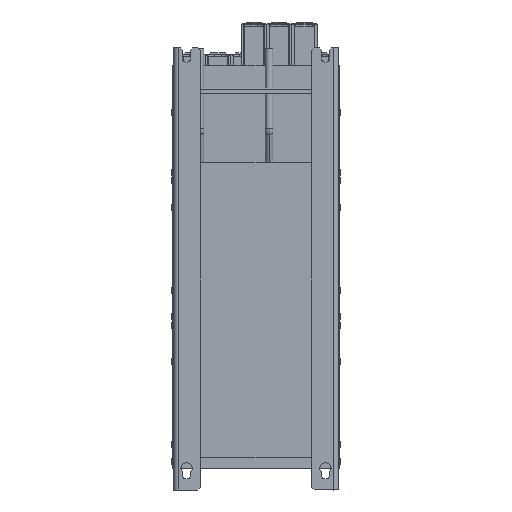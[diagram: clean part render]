
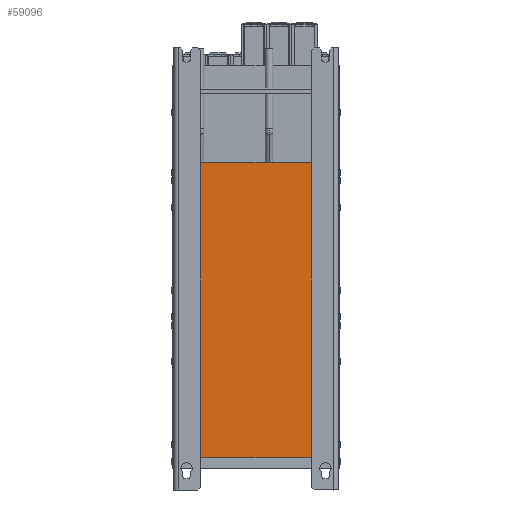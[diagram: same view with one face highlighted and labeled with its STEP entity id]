
A CAD part, front view. The second image highlights one B-rep face of the part: STEP entity #59096.
In plain terms, the highlighted planar face has unit normal (0, -1, 0).
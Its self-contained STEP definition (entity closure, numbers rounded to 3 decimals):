
#3182 = LINE ( 'NONE', #72032, #83094 ) ;
#4400 = CARTESIAN_POINT ( 'NONE',  ( 159., 0., 912.116 ) ) ;
#9617 = EDGE_CURVE ( 'NONE', #18119, #70335, #25114, .T. ) ;
#11602 = DIRECTION ( 'NONE',  ( 0., 0., 1. ) ) ;
#11630 = ORIENTED_EDGE ( 'NONE', *, *, #63005, .T. ) ;
#13081 = CARTESIAN_POINT ( 'NONE',  ( -159., 0., 0. ) ) ;
#14714 = DIRECTION ( 'NONE',  ( 1., 0., 0. ) ) ;
#17881 = FACE_OUTER_BOUND ( 'NONE', #30012, .T. ) ;
#18119 = VERTEX_POINT ( 'NONE', #72751 ) ;
#24336 = VERTEX_POINT ( 'NONE', #13081 ) ;
#24656 = PLANE ( 'NONE',  #52478 ) ;
#24771 = VECTOR ( 'NONE', #11602, 1000. ) ;
#25114 = LINE ( 'NONE', #4400, #24771 ) ;
#29150 = EDGE_CURVE ( 'NONE', #70335, #54203, #35473, .T. ) ;
#29159 = EDGE_CURVE ( 'NONE', #24336, #18119, #48930, .T. ) ;
#30012 = EDGE_LOOP ( 'NONE', ( #79689, #60887, #32250, #11630 ) ) ;
#30029 = DIRECTION ( 'NONE',  ( -1., 0., 0. ) ) ;
#32250 = ORIENTED_EDGE ( 'NONE', *, *, #29150, .T. ) ;
#33545 = VECTOR ( 'NONE', #30029, 1000. ) ;
#35473 = LINE ( 'NONE', #36810, #33545 ) ;
#36810 = CARTESIAN_POINT ( 'NONE',  ( 163., 0., 585. ) ) ;
#44149 = DIRECTION ( 'NONE',  ( 0., 0., -1. ) ) ;
#45346 = DIRECTION ( 'NONE',  ( -1., 0., 0. ) ) ;
#48930 = LINE ( 'NONE', #76372, #50743 ) ;
#50743 = VECTOR ( 'NONE', #14714, 1000. ) ;
#52112 = CARTESIAN_POINT ( 'NONE',  ( 163., 0., 912.116 ) ) ;
#52478 = AXIS2_PLACEMENT_3D ( 'NONE', #52112, #79573, #45346 ) ;
#54203 = VERTEX_POINT ( 'NONE', #55401 ) ;
#55401 = CARTESIAN_POINT ( 'NONE',  ( -159., 0., 585. ) ) ;
#59096 = ADVANCED_FACE ( 'NONE', ( #17881 ), #24656, .F. ) ;
#60887 = ORIENTED_EDGE ( 'NONE', *, *, #9617, .T. ) ;
#63005 = EDGE_CURVE ( 'NONE', #54203, #24336, #3182, .T. ) ;
#69071 = CARTESIAN_POINT ( 'NONE',  ( 159., 0., 585. ) ) ;
#70335 = VERTEX_POINT ( 'NONE', #69071 ) ;
#72032 = CARTESIAN_POINT ( 'NONE',  ( -159., 0., 582.5 ) ) ;
#72751 = CARTESIAN_POINT ( 'NONE',  ( 159., 0., 0. ) ) ;
#76372 = CARTESIAN_POINT ( 'NONE',  ( 163., 0., 0. ) ) ;
#79573 = DIRECTION ( 'NONE',  ( 0., 1., 0. ) ) ;
#79689 = ORIENTED_EDGE ( 'NONE', *, *, #29159, .T. ) ;
#83094 = VECTOR ( 'NONE', #44149, 1000. ) ;
